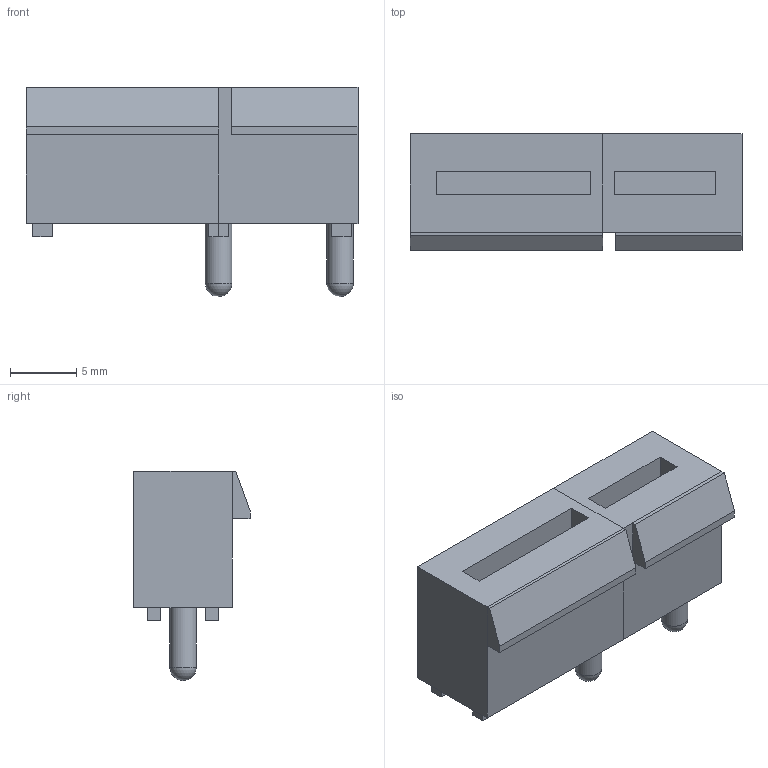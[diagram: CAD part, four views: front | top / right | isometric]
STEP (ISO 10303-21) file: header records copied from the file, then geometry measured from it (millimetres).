
FILE_DESCRIPTION(('FreeCAD Model'),'2;1');
FILE_NAME('Open CASCADE Shape Model','2023-11-14T14:19:34',('Author'),( ''),'Open CASCADE STEP processor 7.6','FreeCAD','Unknown');
FILE_SCHEMA(('AUTOMOTIVE_DESIGN { 1 0 10303 214 1 1 1 1 }'));
Length unit declared in the file: millimetre
Products named in the file (1): Group
Bounding box: 25 x 8.75 x 15.75 mm (x, y, z)
Volume: 1750.3 mm3; surface area: 1531.4 mm2
Topology: 1 solids, 1 shells, 72 faces, 174 edges, 109 vertices
Faces by surface type: plane 68, cylinder 2, sphere 2
Full cylindrical faces by diameter (mm): 2 x2
Entity records: 4254 total; most frequent: CARTESIAN_POINT 730, DIRECTION 638, LINE 472, VECTOR 472, ORIENTED_EDGE 344, PCURVE 344, DEFINITIONAL_REPRESENTATION 344, EDGE_CURVE 172
